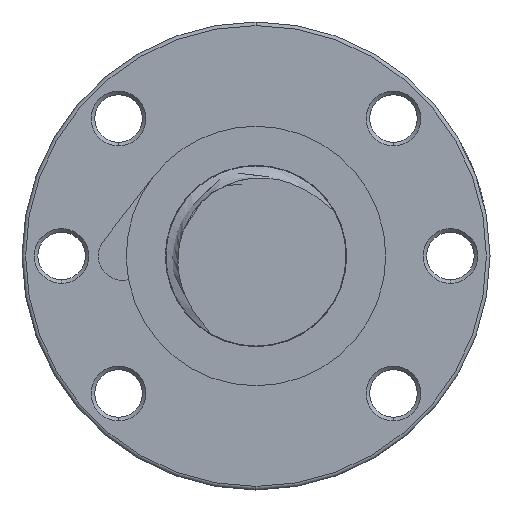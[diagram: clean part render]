
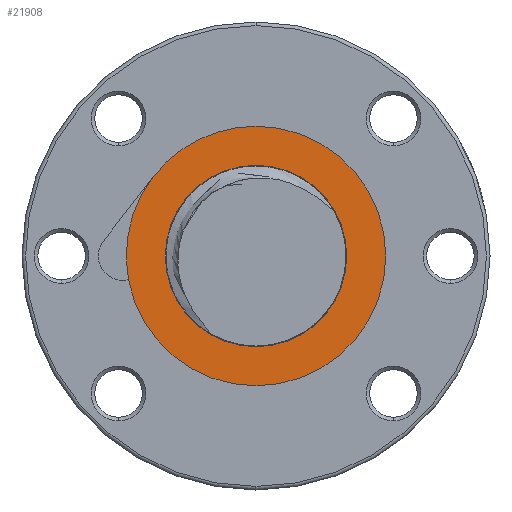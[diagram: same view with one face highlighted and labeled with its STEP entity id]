
A CAD part, left-side view. The second image highlights one B-rep face of the part: STEP entity #21908.
In plain terms, the highlighted planar face has unit normal (-1, 0, 0).
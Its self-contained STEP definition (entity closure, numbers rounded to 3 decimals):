
#198 = CARTESIAN_POINT ( 'NONE',  ( -110.8, 0., 18.019 ) ) ;
#199 = CARTESIAN_POINT ( 'NONE',  ( -110.8, 0., -18.019 ) ) ;
#200 = DIRECTION ( 'NONE',  ( 0., 0., 1. ) ) ;
#201 = DIRECTION ( 'NONE',  ( -1., 0., 0. ) ) ;
#202 = AXIS2_PLACEMENT_3D ( 'NONE', #209, #201, #200 ) ;
#203 = CIRCLE ( 'NONE', #202, 18.019 ) ;
#209 = CARTESIAN_POINT ( 'NONE',  ( -110.8, 0., 0. ) ) ;
#228 = DIRECTION ( 'NONE',  ( 0., 0., 1. ) ) ;
#229 = DIRECTION ( 'NONE',  ( -1., 0., 0. ) ) ;
#230 = AXIS2_PLACEMENT_3D ( 'NONE', #236, #229, #228 ) ;
#231 = CIRCLE ( 'NONE', #230, 18.019 ) ;
#236 = CARTESIAN_POINT ( 'NONE',  ( -110.8, 0., 0. ) ) ;
#261 = CARTESIAN_POINT ( 'NONE',  ( -110.8, 14.243, 11.038 ) ) ;
#428 = FACE_BOUND ( 'NONE', #21876, .T. ) ;
#429 = FACE_OUTER_BOUND ( 'NONE', #21909, .T. ) ;
#430 = DIRECTION ( 'NONE',  ( 0., 0., 1. ) ) ;
#431 = DIRECTION ( 'NONE',  ( -1., 0., 0. ) ) ;
#432 = CARTESIAN_POINT ( 'NONE',  ( -110.8, 0., 0. ) ) ;
#433 = AXIS2_PLACEMENT_3D ( 'NONE', #432, #431, #430 ) ;
#434 = CIRCLE ( 'NONE', #433, 12.6 ) ;
#477 = DIRECTION ( 'NONE',  ( 0., 0., 1. ) ) ;
#478 = DIRECTION ( 'NONE',  ( -1., 0., 0. ) ) ;
#479 = CARTESIAN_POINT ( 'NONE',  ( -110.8, 0., 0. ) ) ;
#480 = AXIS2_PLACEMENT_3D ( 'NONE', #479, #478, #477 ) ;
#481 = CIRCLE ( 'NONE', #480, 18.019 ) ;
#482 = DIRECTION ( 'NONE',  ( 0., 0., 1. ) ) ;
#483 = DIRECTION ( 'NONE',  ( -1., 0., 0. ) ) ;
#484 = CARTESIAN_POINT ( 'NONE',  ( -110.8, 0., 12.6 ) ) ;
#485 = AXIS2_PLACEMENT_3D ( 'NONE', #484, #483, #482 ) ;
#486 = PLANE ( 'NONE',  #485 ) ;
#669 = CIRCLE ( 'NONE', #724, 18.019 ) ;
#674 = CARTESIAN_POINT ( 'NONE',  ( -110.8, 0., 0. ) ) ;
#721 = CARTESIAN_POINT ( 'NONE',  ( -110.8, 17.717, -3.285 ) ) ;
#722 = DIRECTION ( 'NONE',  ( 0., 0., 1. ) ) ;
#723 = DIRECTION ( 'NONE',  ( -1., 0., 0. ) ) ;
#724 = AXIS2_PLACEMENT_3D ( 'NONE', #674, #723, #722 ) ;
#21437 = EDGE_CURVE ( 'NONE', #21438, #21439, #203, .T. ) ;
#21438 = VERTEX_POINT ( 'NONE', #199 ) ;
#21439 = VERTEX_POINT ( 'NONE', #198 ) ;
#21454 = EDGE_CURVE ( 'NONE', #21439, #21474, #231, .T. ) ;
#21474 = VERTEX_POINT ( 'NONE', #261 ) ;
#21479 = EDGE_CURVE ( 'NONE', #21517, #21480, #24569, .T. ) ;
#21480 = VERTEX_POINT ( 'NONE', #24564 ) ;
#21517 = VERTEX_POINT ( 'NONE', #24706 ) ;
#21873 = ORIENTED_EDGE ( 'NONE', *, *, #22004, .T. ) ;
#21874 = ORIENTED_EDGE ( 'NONE', *, *, #21437, .T. ) ;
#21875 = ORIENTED_EDGE ( 'NONE', *, *, #21454, .T. ) ;
#21876 = EDGE_LOOP ( 'NONE', ( #21877, #21878 ) ) ;
#21877 = ORIENTED_EDGE ( 'NONE', *, *, #21907, .F. ) ;
#21878 = ORIENTED_EDGE ( 'NONE', *, *, #21479, .F. ) ;
#21907 = EDGE_CURVE ( 'NONE', #21480, #21517, #434, .T. ) ;
#21908 = ADVANCED_FACE ( 'NONE', ( #429, #428 ), #486, .T. ) ;
#21909 = EDGE_LOOP ( 'NONE', ( #21910, #21873, #21874, #21875 ) ) ;
#21910 = ORIENTED_EDGE ( 'NONE', *, *, #21911, .T. ) ;
#21911 = EDGE_CURVE ( 'NONE', #21474, #22005, #481, .T. ) ;
#22004 = EDGE_CURVE ( 'NONE', #22005, #21438, #669, .T. ) ;
#22005 = VERTEX_POINT ( 'NONE', #721 ) ;
#24564 = CARTESIAN_POINT ( 'NONE',  ( -110.8, 0., 12.6 ) ) ;
#24565 = DIRECTION ( 'NONE',  ( 0., 0., 1. ) ) ;
#24566 = DIRECTION ( 'NONE',  ( -1., 0., 0. ) ) ;
#24567 = CARTESIAN_POINT ( 'NONE',  ( -110.8, 0., 0. ) ) ;
#24568 = AXIS2_PLACEMENT_3D ( 'NONE', #24567, #24566, #24565 ) ;
#24569 = CIRCLE ( 'NONE', #24568, 12.6 ) ;
#24706 = CARTESIAN_POINT ( 'NONE',  ( -110.8, 0., -12.6 ) ) ;
